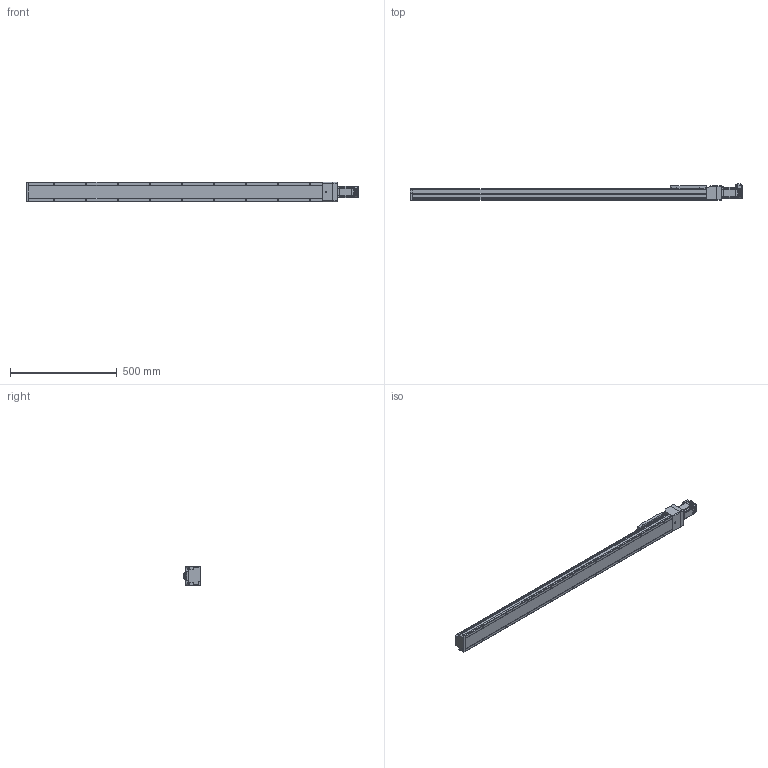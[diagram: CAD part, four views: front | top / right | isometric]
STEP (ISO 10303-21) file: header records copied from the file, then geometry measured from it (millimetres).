
FILE_DESCRIPTION (( 'STEP AP214' ), '1' );
FILE_NAME ('LEFS3(+)-40NM1仩-1200-23L.STEP', '2023-06-02T05:24:08', ( '' ), ( '' ), 'SwSTEP 2.0', 'SolidWorks 2019', '' );
FILE_SCHEMA (( 'AUTOMOTIVE_DESIGN' ));
Length unit declared in the file: millimetre
Products named in the file (5): LEFS3(+)-40NM1_TABLE; LEFS3(+)-40NM1仩-1200-23L; LEFS3(+)-40NM1?_BODY_1200; LEFS3(+)-40NM1_Motor Flange; CM3(+)-23L50A_4-M4
Assembly tree (4 placements, depth 2):
  LEFS3(+)-40NM1仩-1200-23L
    LEFS3(+)-40NM1?_BODY_1200
    LEFS3(+)-40NM1_TABLE
    LEFS3(+)-40NM1_Motor Flange
    CM3(+)-23L50A_4-M4
Bounding box: 1557.6 x 76.75 x 90 mm (x, y, z)
Volume: 6464938.8 mm3; surface area: 542452.8 mm2
Topology: 5 solids, 14 shells, 1674 faces, 4353 edges, 2696 vertices
Faces by surface type: plane 768, cylinder 535, bspline 133, cone 117, torus 74, sphere 47
Entity records: 56797 total; most frequent: CARTESIAN_POINT 14129, ORIENTED_EDGE 8556, DIRECTION 7998, EDGE_CURVE 4278, AXIS2_PLACEMENT_3D 2728, VERTEX_POINT 2696, VECTOR 2542, LINE 2542
